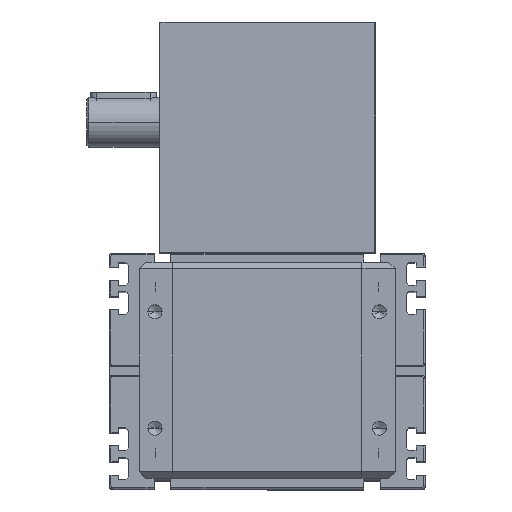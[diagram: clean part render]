
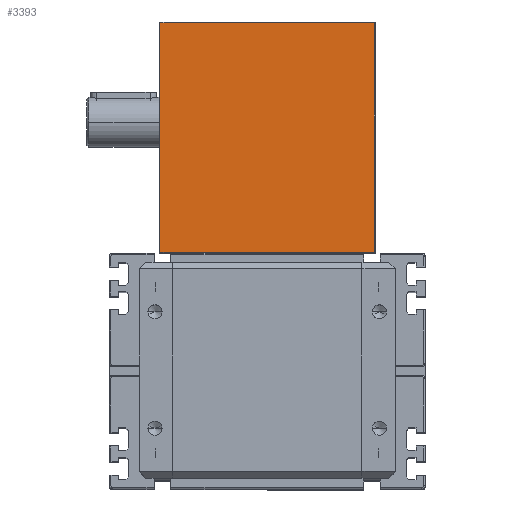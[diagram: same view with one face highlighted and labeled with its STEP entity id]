
A CAD part, top view. The second image highlights one B-rep face of the part: STEP entity #3393.
In plain terms, the highlighted planar face has unit normal (0, 0, 1).
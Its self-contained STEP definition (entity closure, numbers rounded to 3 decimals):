
#1237 = FACE_OUTER_BOUND ( 'NONE', #27345, .T. ) ;
#2544 = CARTESIAN_POINT ( 'NONE',  ( 64.5, 139., 135. ) ) ;
#3025 = VERTEX_POINT ( 'NONE', #23938 ) ;
#3078 = VECTOR ( 'NONE', #25290, 1000. ) ;
#3393 = ADVANCED_FACE ( 'NONE', ( #1237 ), #32660, .F. ) ;
#3623 = VECTOR ( 'NONE', #25191, 1000. ) ;
#3944 = CARTESIAN_POINT ( 'NONE',  ( 64.5, 0.5, 135. ) ) ;
#4152 = DIRECTION ( 'NONE',  ( -1., 0., 0. ) ) ;
#4956 = LINE ( 'NONE', #30144, #8997 ) ;
#5566 = DIRECTION ( 'NONE',  ( 1., 0., 0. ) ) ;
#8056 = ORIENTED_EDGE ( 'NONE', *, *, #26314, .T. ) ;
#8997 = VECTOR ( 'NONE', #5566, 1000. ) ;
#9595 = CARTESIAN_POINT ( 'NONE',  ( -64.5, 138.5, 135. ) ) ;
#12514 = ORIENTED_EDGE ( 'NONE', *, *, #31555, .T. ) ;
#12629 = CARTESIAN_POINT ( 'NONE',  ( -64.5, 0., 135. ) ) ;
#13277 = VERTEX_POINT ( 'NONE', #3944 ) ;
#15755 = LINE ( 'NONE', #12629, #3078 ) ;
#16810 = ORIENTED_EDGE ( 'NONE', *, *, #30622, .T. ) ;
#19950 = DIRECTION ( 'NONE',  ( 0., 0., -1. ) ) ;
#22450 = DIRECTION ( 'NONE',  ( -1., 0., 0. ) ) ;
#22634 = VECTOR ( 'NONE', #22450, 1000. ) ;
#23938 = CARTESIAN_POINT ( 'NONE',  ( 64.5, 138.5, 135. ) ) ;
#23950 = EDGE_CURVE ( 'NONE', #26415, #13277, #4956, .T. ) ;
#25191 = DIRECTION ( 'NONE',  ( 0., 1., 0. ) ) ;
#25290 = DIRECTION ( 'NONE',  ( 0., -1., 0. ) ) ;
#25364 = CARTESIAN_POINT ( 'NONE',  ( -64.5, 0.5, 135. ) ) ;
#26314 = EDGE_CURVE ( 'NONE', #3025, #28334, #31029, .T. ) ;
#26415 = VERTEX_POINT ( 'NONE', #25364 ) ;
#27345 = EDGE_LOOP ( 'NONE', ( #16810, #8056, #12514, #36322 ) ) ;
#28332 = LINE ( 'NONE', #2544, #3623 ) ;
#28334 = VERTEX_POINT ( 'NONE', #9595 ) ;
#30144 = CARTESIAN_POINT ( 'NONE',  ( 65., 0.5, 135. ) ) ;
#30165 = CARTESIAN_POINT ( 'NONE',  ( 65., 0., 135. ) ) ;
#30622 = EDGE_CURVE ( 'NONE', #13277, #3025, #28332, .T. ) ;
#31029 = LINE ( 'NONE', #35173, #22634 ) ;
#31555 = EDGE_CURVE ( 'NONE', #28334, #26415, #15755, .T. ) ;
#32660 = PLANE ( 'NONE',  #38940 ) ;
#35173 = CARTESIAN_POINT ( 'NONE',  ( 65., 138.5, 135. ) ) ;
#36322 = ORIENTED_EDGE ( 'NONE', *, *, #23950, .T. ) ;
#38940 = AXIS2_PLACEMENT_3D ( 'NONE', #30165, #19950, #4152 ) ;
